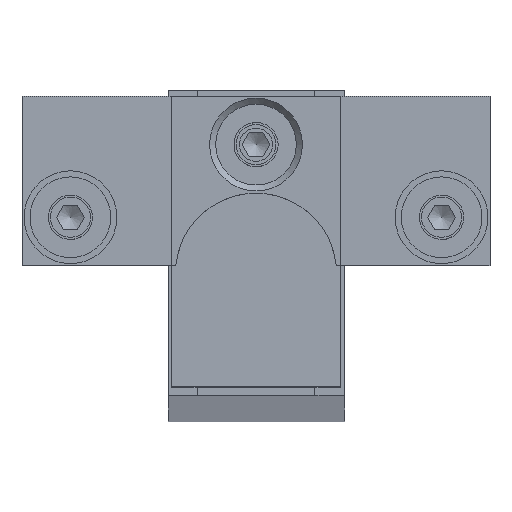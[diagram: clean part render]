
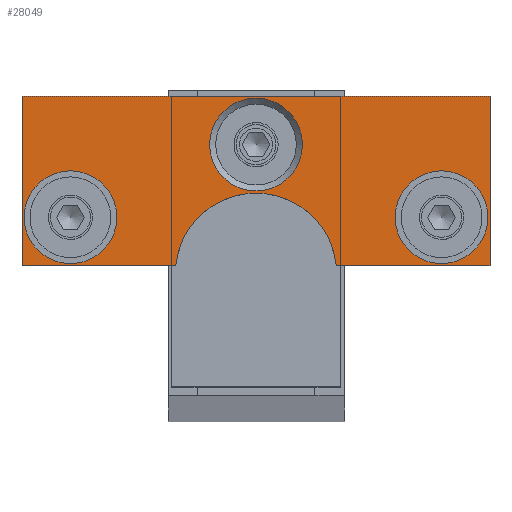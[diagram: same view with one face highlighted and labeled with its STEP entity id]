
A CAD part, top view. The second image highlights one B-rep face of the part: STEP entity #28049.
In plain terms, the highlighted planar face has unit normal (0, 0, 1).
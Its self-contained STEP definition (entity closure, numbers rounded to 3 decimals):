
#375=FACE_BOUND('',#3675,.T.);
#376=FACE_BOUND('',#3676,.T.);
#377=FACE_BOUND('',#3677,.T.);
#779=PLANE('',#30304);
#2030=FACE_OUTER_BOUND('',#3674,.T.);
#3674=EDGE_LOOP('',(#19374,#19375,#19376,#19377,#19378,#19379));
#3675=EDGE_LOOP('',(#19380));
#3676=EDGE_LOOP('',(#19381));
#3677=EDGE_LOOP('',(#19382));
#5799=LINE('',#48072,#6815);
#5800=LINE('',#48074,#6816);
#5801=LINE('',#48076,#6817);
#5802=LINE('',#48080,#6818);
#5803=LINE('',#48081,#6819);
#6815=VECTOR('',#35686,10.);
#6816=VECTOR('',#35687,10.);
#6817=VECTOR('',#35688,10.);
#6818=VECTOR('',#35691,10.);
#6819=VECTOR('',#35692,10.);
#8103=CIRCLE('',#30302,5.75);
#8105=CIRCLE('',#30305,10.);
#8106=CIRCLE('',#30306,5.75);
#8107=CIRCLE('',#30307,5.75);
#10955=VERTEX_POINT('',#48064);
#10957=VERTEX_POINT('',#48070);
#10958=VERTEX_POINT('',#48071);
#10959=VERTEX_POINT('',#48073);
#10960=VERTEX_POINT('',#48075);
#10961=VERTEX_POINT('',#48077);
#10962=VERTEX_POINT('',#48079);
#10963=VERTEX_POINT('',#48082);
#10964=VERTEX_POINT('',#48084);
#14302=EDGE_CURVE('',#10955,#10955,#8103,.T.);
#14305=EDGE_CURVE('',#10957,#10958,#5799,.T.);
#14306=EDGE_CURVE('',#10958,#10959,#5800,.T.);
#14307=EDGE_CURVE('',#10959,#10960,#5801,.T.);
#14308=EDGE_CURVE('',#10960,#10961,#8105,.T.);
#14309=EDGE_CURVE('',#10961,#10962,#5802,.T.);
#14310=EDGE_CURVE('',#10962,#10957,#5803,.T.);
#14311=EDGE_CURVE('',#10963,#10963,#8106,.T.);
#14312=EDGE_CURVE('',#10964,#10964,#8107,.T.);
#19374=ORIENTED_EDGE('',*,*,#14305,.T.);
#19375=ORIENTED_EDGE('',*,*,#14306,.T.);
#19376=ORIENTED_EDGE('',*,*,#14307,.T.);
#19377=ORIENTED_EDGE('',*,*,#14308,.T.);
#19378=ORIENTED_EDGE('',*,*,#14309,.T.);
#19379=ORIENTED_EDGE('',*,*,#14310,.T.);
#19380=ORIENTED_EDGE('',*,*,#14311,.F.);
#19381=ORIENTED_EDGE('',*,*,#14312,.F.);
#19382=ORIENTED_EDGE('',*,*,#14302,.F.);
#28049=ADVANCED_FACE('',(#2030,#375,#376,#377),#779,.T.);
#30302=AXIS2_PLACEMENT_3D('',#48065,#35679,#35680);
#30304=AXIS2_PLACEMENT_3D('',#48069,#35684,#35685);
#30305=AXIS2_PLACEMENT_3D('',#48078,#35689,#35690);
#30306=AXIS2_PLACEMENT_3D('',#48083,#35693,#35694);
#30307=AXIS2_PLACEMENT_3D('',#48085,#35695,#35696);
#35679=DIRECTION('center_axis',(0.,0.,
1.));
#35680=DIRECTION('ref_axis',(-1.,0.,0.));
#35684=DIRECTION('center_axis',(0.,0.,
1.));
#35685=DIRECTION('ref_axis',(1.,0.,0.));
#35686=DIRECTION('',(-1.,0.,0.));
#35687=DIRECTION('',(0.,-1.,0.));
#35688=DIRECTION('',(1.,0.,0.));
#35689=DIRECTION('center_axis',(0.,0.,
-1.));
#35690=DIRECTION('ref_axis',(0.995,0.1,0.));
#35691=DIRECTION('',(1.,0.,0.));
#35692=DIRECTION('',(0.,1.,0.));
#35693=DIRECTION('center_axis',(0.,0.,
1.));
#35694=DIRECTION('ref_axis',(-1.,0.,0.));
#35695=DIRECTION('center_axis',(0.,0.,
1.));
#35696=DIRECTION('ref_axis',(-1.,0.,0.));
#48064=CARTESIAN_POINT('',(39.65,22.,516.));
#48065=CARTESIAN_POINT('Origin',(33.9,22.,516.));
#48069=CARTESIAN_POINT('Origin',(10.9,27.153,516.));
#48070=CARTESIAN_POINT('',(39.9,37.,516.));
#48071=CARTESIAN_POINT('',(-18.1,37.,516.));
#48072=CARTESIAN_POINT('',(-18.1,37.,516.));
#48073=CARTESIAN_POINT('',(-18.1,16.,516.));
#48074=CARTESIAN_POINT('',(-18.1,16.,516.));
#48075=CARTESIAN_POINT('',(0.95,16.,516.));
#48076=CARTESIAN_POINT('',(0.95,16.,516.));
#48077=CARTESIAN_POINT('',(20.85,16.,516.));
#48078=CARTESIAN_POINT('Origin',(10.9,15.,516.));
#48079=CARTESIAN_POINT('',(39.9,16.,516.));
#48080=CARTESIAN_POINT('',(39.9,16.,516.));
#48081=CARTESIAN_POINT('',(39.9,37.,516.));
#48082=CARTESIAN_POINT('',(16.65,31.,516.));
#48083=CARTESIAN_POINT('Origin',(10.9,31.,516.));
#48084=CARTESIAN_POINT('',(-6.35,22.,516.));
#48085=CARTESIAN_POINT('Origin',(-12.1,22.,516.));
